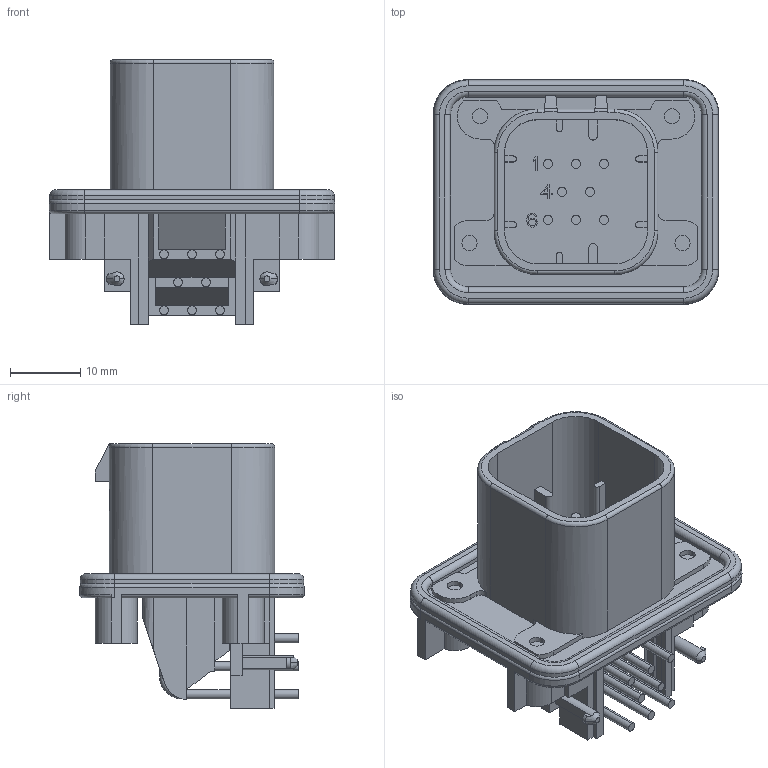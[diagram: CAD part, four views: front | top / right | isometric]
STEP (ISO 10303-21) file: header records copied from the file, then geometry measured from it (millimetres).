
FILE_DESCRIPTION((''),'2;1');
FILE_NAME('C-1-776280-1','2010-08-31T',('workeradm'),('Tyco Electronics Ltd.'),'PRO/ENGINEER BY PARAMETRIC TECHNOLOGY CORPORATION, 2009300','PRO/ENGINEER BY PARAMETRIC TECHNOLOGY CORPORATION, 2009300','');
FILE_SCHEMA(('AUTOMOTIVE_DESIGN { 1 0 10303 214 1 1 1 1 }'));
Length unit declared in the file: millimetre
Products named in the file (1): C-1-776280-1
Bounding box: 40.8 x 32.1 x 37.8 mm (x, y, z)
Volume: 9224.8 mm3; surface area: 9265.2 mm2
Topology: 1 solids, 1 shells, 457 faces, 1210 edges, 792 vertices
Faces by surface type: plane 302, cylinder 126, torus 23, cone 4, extrusion 2
Entity records: 14611 total; most frequent: CARTESIAN_POINT 2823, ORIENTED_EDGE 2420, DIRECTION 2350, EDGE_CURVE 1210, VECTOR 900, LINE 898, VERTEX_POINT 792, AXIS2_PLACEMENT_3D 725
